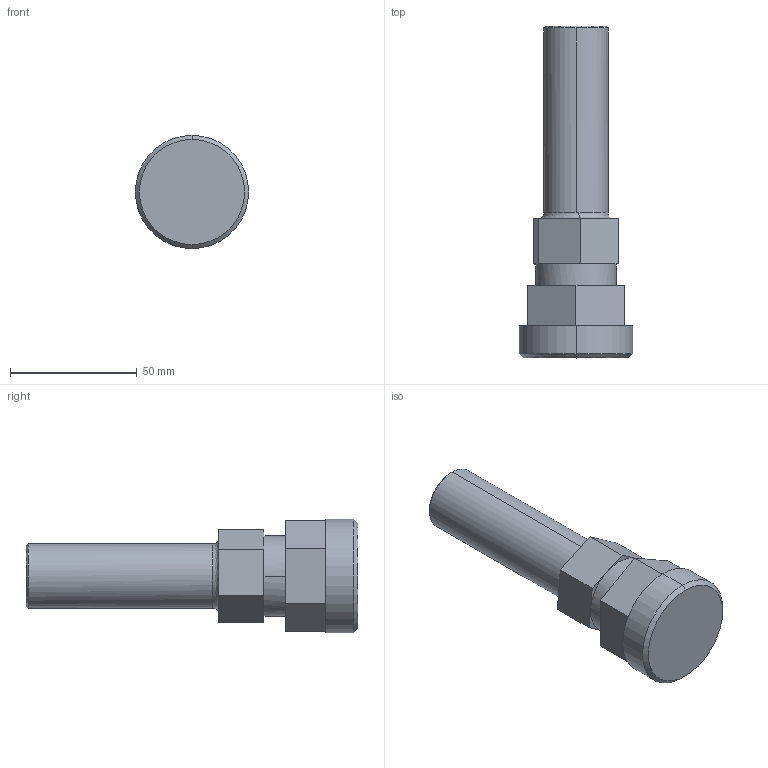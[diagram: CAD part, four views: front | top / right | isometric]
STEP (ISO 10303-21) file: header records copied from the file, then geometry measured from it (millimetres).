
FILE_DESCRIPTION (( 'STEP AP214' ), '1' );
FILE_NAME ('16-tube-out-with-top-mount-adapter.STEP', '2012-11-27T21:00:55', ( '' ), ( '' ), 'SwSTEP 2.0', 'SolidWorks 2012', '' );
FILE_SCHEMA (( 'AUTOMOTIVE_DESIGN' ));
Length unit declared in the file: inch
Products named in the file (1): 16-tube-out-with-top-mount-adapter
Bounding box: 44.7 x 131.09 x 44.7 mm (x, y, z)
Volume: 100680.1 mm3; surface area: 15818.2 mm2
Topology: 1 solids, 1 shells, 35 faces, 80 edges, 50 vertices
Faces by surface type: plane 23, cylinder 6, cone 4, bspline 2
Entity records: 1437 total; most frequent: CARTESIAN_POINT 434, DIRECTION 168, ORIENTED_EDGE 160, EDGE_CURVE 80, AXIS2_PLACEMENT_3D 58, LINE 52, VECTOR 52, VERTEX_POINT 50
